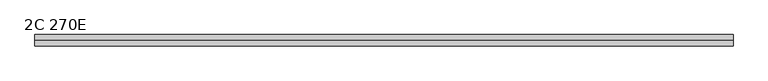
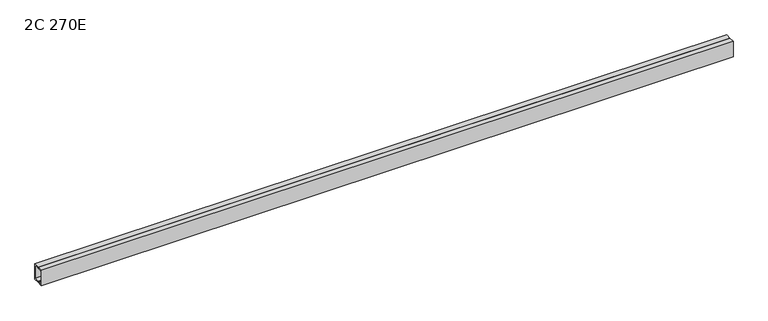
"""IFC4 building model written with IfcOpenShell, lengths in millimetres: beam geometry, RPLN C - Ceowniki ekonomiczne_beamx2 : 2C 270E."""

from ifc_helpers import new_model, si_unit, point, frame, frame_2d, origin, place, context, project, spatial, polyline, circle_curve, trimmed, segment, composite_curve, outline, extrude, source, transform, mapped, element, save


def beam_2c_270e_b8db1d55(model_context):
    return source(origin(), model_context, "Body", "SweptSolid", [
        extrude(outline(composite_curve([segment(polyline([(-95.0, 135.0), (0.0, 135.0)]), True, "CONTINUOUS"), segment(trimmed(circle_curve(frame_2d((-10.5, 135.0)), 10.5), [point((0.0, 135.0))], [point((-10.5, 124.5))], False, "CARTESIAN"), True, "CONTINUOUS"), segment(polyline([(-10.5, 124.5), (-89.0, 112.0668214), (-89.0, -112.0668214), (-10.5, -124.5)]), True, "CONTINUOUS"), segment(trimmed(circle_curve(frame_2d((-10.5, -135.0)), 10.5), [point((-10.5, -124.5))], [point((0.0, -135.0))], False, "CARTESIAN"), True, "CONTINUOUS"), segment(polyline([(0.0, -135.0), (-95.0, -135.0), (-95.0, 135.0)]), True, "CONTINUOUS")], self_intersect=False)), frame((-5809.5, 0.0, 0.0), z_axis=(1.0, 0.0, 0.0), x_axis=(0.0, 1.0, 0.0)), (0.0, 0.0, 1.0), 11619.0),
        extrude(outline(composite_curve([segment(polyline([(95.0, 135.0), (95.0, -135.0), (0.0, -135.0)]), True, "CONTINUOUS"), segment(trimmed(circle_curve(frame_2d((10.5, -135.0)), 10.5), [point((0.0, -135.0))], [point((10.5, -124.5))], False, "CARTESIAN"), True, "CONTINUOUS"), segment(polyline([(10.5, -124.5), (89.0, -112.0668214), (89.0, 112.0668214), (10.5, 124.5)]), True, "CONTINUOUS"), segment(trimmed(circle_curve(frame_2d((10.5, 135.0)), 10.5), [point((10.5, 124.5))], [point((0.0, 135.0))], False, "CARTESIAN"), True, "CONTINUOUS"), segment(polyline([(0.0, 135.0), (95.0, 135.0)]), True, "CONTINUOUS")], self_intersect=False)), frame((-5809.5, 0.0, 0.0), z_axis=(1.0, 0.0, 0.0), x_axis=(0.0, 1.0, 0.0)), (0.0, 0.0, 1.0), 11619.0),
    ])


if __name__ == "__main__":
    model = new_model("IFC4")
    model_context = context("Model", 3, world=origin())
    ifc_project = project(units=[si_unit("LENGTHUNIT", "METRE", prefix="MILLI")], contexts=[model_context])
    site = spatial("IfcSite", under=ifc_project)
    building = spatial("IfcBuilding", under=site)
    placement = place(None, origin())
    beam_2c_270e_shape = beam_2c_270e_b8db1d55(model_context)
    element("IfcBeam", 1, ObjectType="RPLN C - Ceowniki ekonomiczne_beamx2 : 2C 270E", at=placement, inside=building, context=model_context, shape_type="MappedRepresentation", body=[
        mapped(beam_2c_270e_shape, transform((0.0, 0.0, 0.0), x_axis=(1.0, 0.0, 0.0), y_axis=(0.0, 1.0, 0.0), z_axis=(0.0, 0.0, 1.0))),
    ])
    save(model, "model.ifc")
